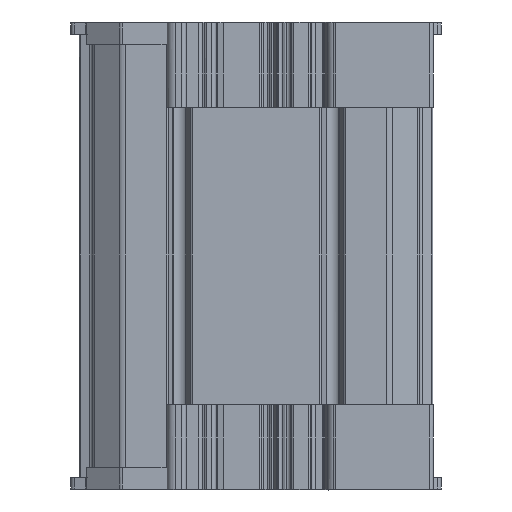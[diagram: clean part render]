
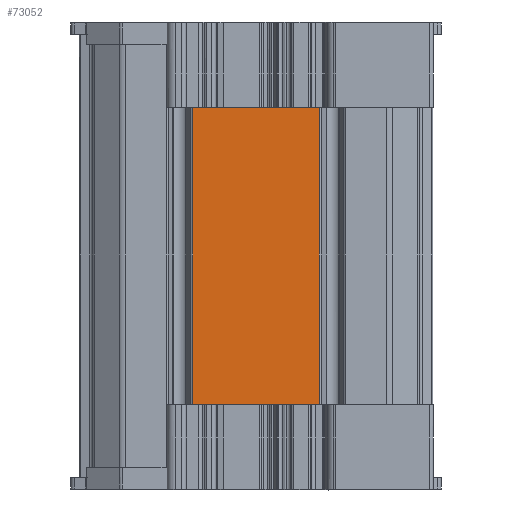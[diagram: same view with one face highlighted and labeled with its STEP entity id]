
A CAD part, front view. The second image highlights one B-rep face of the part: STEP entity #73052.
In plain terms, the highlighted planar face has unit normal (0, -1, 0).
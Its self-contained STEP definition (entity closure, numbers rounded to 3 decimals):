
#20 = DIRECTION ( 'NONE',  ( 0., 1., 0. ) ) ;
#2108 = VECTOR ( 'NONE', #46332, 1000. ) ;
#4648 = DIRECTION ( 'NONE',  ( 1., 0., 0. ) ) ;
#5280 = LINE ( 'NONE', #32312, #106997 ) ;
#8263 = EDGE_CURVE ( 'NONE', #136878, #94657, #91561, .T. ) ;
#11025 = VERTEX_POINT ( 'NONE', #30424 ) ;
#14872 = LINE ( 'NONE', #59909, #50414 ) ;
#16018 = ORIENTED_EDGE ( 'NONE', *, *, #44318, .T. ) ;
#17531 = DIRECTION ( 'NONE',  ( -1., 0., 0. ) ) ;
#19256 = CARTESIAN_POINT ( 'NONE',  ( 44.573, 13.775, -140. ) ) ;
#20686 = CARTESIAN_POINT ( 'NONE',  ( 59.458, 13.775, -100. ) ) ;
#21178 = CARTESIAN_POINT ( 'NONE',  ( 59.958, 13.775, -36. ) ) ;
#21562 = EDGE_CURVE ( 'NONE', #145707, #58574, #140402, .T. ) ;
#22844 = LINE ( 'NONE', #44273, #140544 ) ;
#27170 = CARTESIAN_POINT ( 'NONE',  ( 158.36, 13.775, -36. ) ) ;
#28519 = EDGE_LOOP ( 'NONE', ( #49746, #16018, #44639, #131474, #125528, #113112, #141087, #72258 ) ) ;
#30424 = CARTESIAN_POINT ( 'NONE',  ( 74.343, 13.775, -140. ) ) ;
#31092 = CARTESIAN_POINT ( 'NONE',  ( 44.573, 13.775, -36. ) ) ;
#31156 = LINE ( 'NONE', #111590, #93430 ) ;
#32312 = CARTESIAN_POINT ( 'NONE',  ( 74.343, 13.775, 0. ) ) ;
#36045 = CARTESIAN_POINT ( 'NONE',  ( 58.958, 13.775, -140. ) ) ;
#39335 = DIRECTION ( 'NONE',  ( 1., 0., 0. ) ) ;
#44273 = CARTESIAN_POINT ( 'NONE',  ( 59.458, 13.775, -140. ) ) ;
#44318 = EDGE_CURVE ( 'NONE', #138108, #108473, #14872, .T. ) ;
#44431 = EDGE_CURVE ( 'NONE', #138108, #11025, #5280, .T. ) ;
#44639 = ORIENTED_EDGE ( 'NONE', *, *, #125564, .F. ) ;
#46332 = DIRECTION ( 'NONE',  ( 1., 0., 0. ) ) ;
#49556 = DIRECTION ( 'NONE',  ( -1., 0., 0. ) ) ;
#49746 = ORIENTED_EDGE ( 'NONE', *, *, #44431, .F. ) ;
#50272 = EDGE_CURVE ( 'NONE', #134954, #58574, #22844, .T. ) ;
#50414 = VECTOR ( 'NONE', #49556, 1000. ) ;
#52618 = CARTESIAN_POINT ( 'NONE',  ( 58.958, 13.775, -36. ) ) ;
#55979 = LINE ( 'NONE', #102444, #2108 ) ;
#56204 = DIRECTION ( 'NONE',  ( 0., 0., 1. ) ) ;
#58574 = VERTEX_POINT ( 'NONE', #36045 ) ;
#59909 = CARTESIAN_POINT ( 'NONE',  ( 158.36, 13.775, -36. ) ) ;
#60013 = CARTESIAN_POINT ( 'NONE',  ( 59.458, 13.775, -140. ) ) ;
#70064 = CARTESIAN_POINT ( 'NONE',  ( 74.343, 13.775, -36. ) ) ;
#72258 = ORIENTED_EDGE ( 'NONE', *, *, #126991, .T. ) ;
#73052 = ADVANCED_FACE ( 'NONE', ( #78954 ), #79672, .F. ) ;
#75660 = VECTOR ( 'NONE', #17531, 1000. ) ;
#77488 = DIRECTION ( 'NONE',  ( -1., 0., 0. ) ) ;
#78954 = FACE_OUTER_BOUND ( 'NONE', #28519, .T. ) ;
#79672 = PLANE ( 'NONE',  #101650 ) ;
#82368 = VECTOR ( 'NONE', #4648, 1000. ) ;
#85061 = CARTESIAN_POINT ( 'NONE',  ( 59.458, 13.775, -140. ) ) ;
#86451 = EDGE_CURVE ( 'NONE', #145707, #94657, #31156, .T. ) ;
#91561 = LINE ( 'NONE', #27170, #75660 ) ;
#93430 = VECTOR ( 'NONE', #56204, 1000. ) ;
#94657 = VERTEX_POINT ( 'NONE', #31092 ) ;
#99648 = DIRECTION ( 'NONE',  ( 0., 0., 1. ) ) ;
#101650 = AXIS2_PLACEMENT_3D ( 'NONE', #20686, #20, #99648 ) ;
#102444 = CARTESIAN_POINT ( 'NONE',  ( 59.458, 13.775, -36. ) ) ;
#105755 = LINE ( 'NONE', #60013, #82368 ) ;
#106997 = VECTOR ( 'NONE', #107100, 1000. ) ;
#107100 = DIRECTION ( 'NONE',  ( 0., 0., -1. ) ) ;
#108473 = VERTEX_POINT ( 'NONE', #21178 ) ;
#111590 = CARTESIAN_POINT ( 'NONE',  ( 44.573, 13.775, 0. ) ) ;
#113112 = ORIENTED_EDGE ( 'NONE', *, *, #21562, .T. ) ;
#120787 = CARTESIAN_POINT ( 'NONE',  ( 59.958, 13.775, -140. ) ) ;
#125528 = ORIENTED_EDGE ( 'NONE', *, *, #86451, .F. ) ;
#125564 = EDGE_CURVE ( 'NONE', #136878, #108473, #55979, .T. ) ;
#126991 = EDGE_CURVE ( 'NONE', #134954, #11025, #105755, .T. ) ;
#131474 = ORIENTED_EDGE ( 'NONE', *, *, #8263, .T. ) ;
#134954 = VERTEX_POINT ( 'NONE', #120787 ) ;
#136836 = VECTOR ( 'NONE', #39335, 1000. ) ;
#136878 = VERTEX_POINT ( 'NONE', #52618 ) ;
#138108 = VERTEX_POINT ( 'NONE', #70064 ) ;
#140402 = LINE ( 'NONE', #85061, #136836 ) ;
#140544 = VECTOR ( 'NONE', #77488, 1000. ) ;
#141087 = ORIENTED_EDGE ( 'NONE', *, *, #50272, .F. ) ;
#145707 = VERTEX_POINT ( 'NONE', #19256 ) ;
